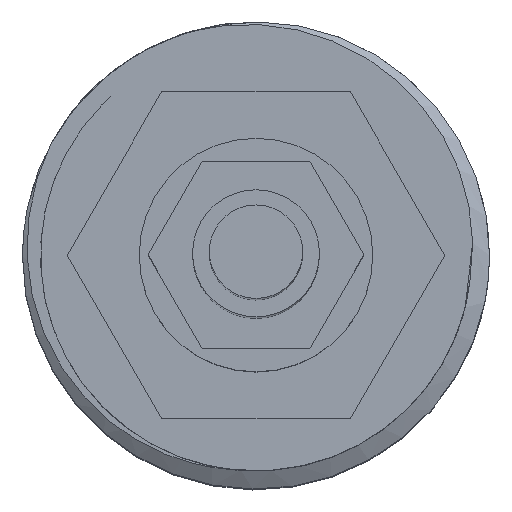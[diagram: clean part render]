
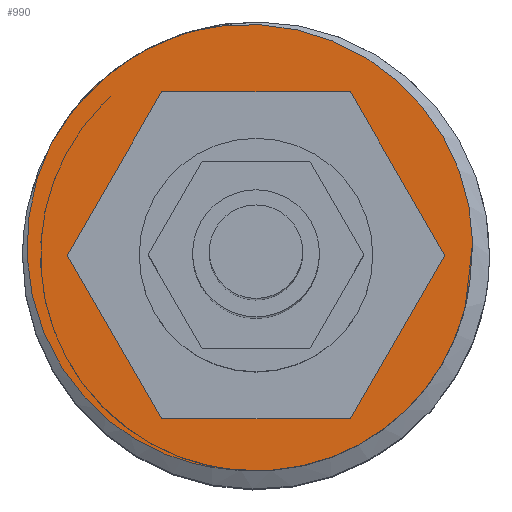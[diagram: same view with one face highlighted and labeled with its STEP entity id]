
A CAD part, top view. The second image highlights one B-rep face of the part: STEP entity #990.
In plain terms, the highlighted planar face has unit normal (0, 0, 1).
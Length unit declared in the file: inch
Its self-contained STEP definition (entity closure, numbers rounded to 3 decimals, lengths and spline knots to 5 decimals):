
#204 = CARTESIAN_POINT ( 'NONE',  ( 0.22918, -0.02614, 0.64 ) ) ;
#353 = EDGE_CURVE ( 'NONE', #364, #354, #1258, .T. ) ;
#354 = VERTEX_POINT ( 'NONE', #1208 ) ;
#364 = VERTEX_POINT ( 'NONE', #1298 ) ;
#621 = EDGE_CURVE ( 'NONE', #630, #354, #6591, .T. ) ;
#630 = VERTEX_POINT ( 'NONE', #204 ) ;
#827 = EDGE_CURVE ( 'NONE', #364, #828, #3387, .T. ) ;
#828 = VERTEX_POINT ( 'NONE', #3388 ) ;
#931 = EDGE_CURVE ( 'NONE', #828, #630, #4883, .T. ) ;
#939 = EDGE_LOOP ( 'NONE', ( #991, #992, #993, #994 ) ) ;
#990 = ADVANCED_FACE ( 'NONE', ( #5041 ), #5040, .F. ) ;
#991 = ORIENTED_EDGE ( 'NONE', *, *, #353, .F. ) ;
#992 = ORIENTED_EDGE ( 'NONE', *, *, #827, .T. ) ;
#993 = ORIENTED_EDGE ( 'NONE', *, *, #931, .T. ) ;
#994 = ORIENTED_EDGE ( 'NONE', *, *, #621, .T. ) ;
#1208 = CARTESIAN_POINT ( 'NONE',  ( -0.07037, 0.23989, 0.64 ) ) ;
#1209 = DIRECTION ( 'NONE',  ( -1., 0., 0. ) ) ;
#1210 = DIRECTION ( 'NONE',  ( 0., 0., -1. ) ) ;
#1211 = CARTESIAN_POINT ( 'NONE',  ( 0., 0., 0.64 ) ) ;
#1212 = AXIS2_PLACEMENT_3D ( 'NONE', #1211, #1210, #1209 ) ;
#1258 = CIRCLE ( 'NONE', #1212, 0.25 ) ;
#1298 = CARTESIAN_POINT ( 'NONE',  ( -0.21939, 0.11987, 0.64 ) ) ;
#3387 = B_SPLINE_CURVE_WITH_KNOTS ( 'NONE', 3,
 ( #3429, #3428, #3427, #3426, #3425, #3399, #3398, #3397, #3396, #3395, #3394, #3393, #3392, #3391, #3390, #3389, #3496, #3495, #3494, #3493, #3492, #3491, #3490, #3489, #3488, #3487, #3486, #3485 ),
 .UNSPECIFIED., .F., .F.,
 ( 4, 2, 2, 2, 2, 2, 2, 2, 2, 2, 2, 2, 2, 4 ),
 ( 0., 0.00075, 0.0015, 0.003, 0.00375, 0.0045, 0.00525, 0.006, 0.0075, 0.00901, 0.00976, 0.01051, 0.01126, 0.01201 ),
 .UNSPECIFIED. ) ;
#3388 = CARTESIAN_POINT ( 'NONE',  ( -0.02614, -0.22918, 0.64 ) ) ;
#3389 = CARTESIAN_POINT ( 'NONE',  ( -0.20615, -0.12385, 0.64 ) ) ;
#3390 = CARTESIAN_POINT ( 'NONE',  ( -0.22026, -0.09809, 0.64 ) ) ;
#3391 = CARTESIAN_POINT ( 'NONE',  ( -0.2245, -0.08911, 0.64 ) ) ;
#3392 = CARTESIAN_POINT ( 'NONE',  ( -0.23177, -0.07084, 0.64 ) ) ;
#3393 = CARTESIAN_POINT ( 'NONE',  ( -0.23482, -0.06155, 0.64 ) ) ;
#3394 = CARTESIAN_POINT ( 'NONE',  ( -0.23978, -0.0427, 0.64 ) ) ;
#3395 = CARTESIAN_POINT ( 'NONE',  ( -0.24169, -0.03313, 0.64 ) ) ;
#3396 = CARTESIAN_POINT ( 'NONE',  ( -0.24434, -0.0137, 0.64 ) ) ;
#3397 = CARTESIAN_POINT ( 'NONE',  ( -0.24507, -0.00379, 0.64 ) ) ;
#3398 = CARTESIAN_POINT ( 'NONE',  ( -0.24548, 0.02566, 0.64 ) ) ;
#3399 = CARTESIAN_POINT ( 'NONE',  ( -0.24346, 0.04506, 0.64 ) ) ;
#3425 = CARTESIAN_POINT ( 'NONE',  ( -0.23696, 0.07382, 0.64 ) ) ;
#3426 = CARTESIAN_POINT ( 'NONE',  ( -0.23421, 0.08336, 0.64 ) ) ;
#3427 = CARTESIAN_POINT ( 'NONE',  ( -0.22762, 0.10193, 0.64 ) ) ;
#3428 = CARTESIAN_POINT ( 'NONE',  ( -0.22378, 0.111, 0.64 ) ) ;
#3429 = CARTESIAN_POINT ( 'NONE',  ( -0.21939, 0.11987, 0.64 ) ) ;
#3485 = CARTESIAN_POINT ( 'NONE',  ( -0.02614, -0.22918, 0.64 ) ) ;
#3486 = CARTESIAN_POINT ( 'NONE',  ( -0.03601, -0.22848, 0.64 ) ) ;
#3487 = CARTESIAN_POINT ( 'NONE',  ( -0.04584, -0.22714, 0.64 ) ) ;
#3488 = CARTESIAN_POINT ( 'NONE',  ( -0.06507, -0.22327, 0.64 ) ) ;
#3489 = CARTESIAN_POINT ( 'NONE',  ( -0.0745, -0.22075, 0.64 ) ) ;
#3490 = CARTESIAN_POINT ( 'NONE',  ( -0.093, -0.21453, 0.64 ) ) ;
#3491 = CARTESIAN_POINT ( 'NONE',  ( -0.10207, -0.21084, 0.64 ) ) ;
#3492 = CARTESIAN_POINT ( 'NONE',  ( -0.11984, -0.20225, 0.64 ) ) ;
#3493 = CARTESIAN_POINT ( 'NONE',  ( -0.12845, -0.1974, 0.64 ) ) ;
#3494 = CARTESIAN_POINT ( 'NONE',  ( -0.15302, -0.18142, 0.64 ) ) ;
#3495 = CARTESIAN_POINT ( 'NONE',  ( -0.16798, -0.16876, 0.64 ) ) ;
#3496 = CARTESIAN_POINT ( 'NONE',  ( -0.19477, -0.13971, 0.64 ) ) ;
#4872 = CARTESIAN_POINT ( 'NONE',  ( 0.22918, -0.02614, 0.64 ) ) ;
#4873 = CARTESIAN_POINT ( 'NONE',  ( 0.22747, -0.04119, 0.64 ) ) ;
#4874 = CARTESIAN_POINT ( 'NONE',  ( 0.22429, -0.05596, 0.64 ) ) ;
#4875 = CARTESIAN_POINT ( 'NONE',  ( 0.21505, -0.08479, 0.64 ) ) ;
#4876 = CARTESIAN_POINT ( 'NONE',  ( 0.20904, -0.09869, 0.64 ) ) ;
#4877 = CARTESIAN_POINT ( 'NONE',  ( 0.18703, -0.13836, 0.64 ) ) ;
#4878 = CARTESIAN_POINT ( 'NONE',  ( 0.16709, -0.16187, 0.64 ) ) ;
#4880 = CARTESIAN_POINT ( 'NONE',  ( 0.00397, -0.23262, 0.64 ) ) ;
#4881 = CARTESIAN_POINT ( 'NONE',  ( -0.02614, -0.22918, 0.64 ) ) ;
#4883 = B_SPLINE_CURVE_WITH_KNOTS ( 'NONE', 3,
 ( #4881, #4880, #4979, #4978, #4977, #4976, #4975, #4878, #4877, #4876, #4875, #4874, #4873, #4872 ),
 .UNSPECIFIED., .F., .F.,
 ( 4, 2, 2, 2, 2, 2, 4 ),
 ( 0., 0.00231, 0.00346, 0.00461, 0.00692, 0.00807, 0.00923 ),
 .UNSPECIFIED. ) ;
#4975 = CARTESIAN_POINT ( 'NONE',  ( 0.13162, -0.19003, 0.64 ) ) ;
#4976 = CARTESIAN_POINT ( 'NONE',  ( 0.11882, -0.19828, 0.64 ) ) ;
#4977 = CARTESIAN_POINT ( 'NONE',  ( 0.09219, -0.21198, 0.64 ) ) ;
#4978 = CARTESIAN_POINT ( 'NONE',  ( 0.07826, -0.21751, 0.64 ) ) ;
#4979 = CARTESIAN_POINT ( 'NONE',  ( 0.03461, -0.23006, 0.64 ) ) ;
#5036 = DIRECTION ( 'NONE',  ( -1., 0., 0. ) ) ;
#5037 = DIRECTION ( 'NONE',  ( 0., 0., -1. ) ) ;
#5038 = AXIS2_PLACEMENT_3D ( 'NONE', #5039, #5037, #5036 ) ;
#5039 = CARTESIAN_POINT ( 'NONE',  ( -0.86739, 3.08953, 0.64 ) ) ;
#5040 = PLANE ( 'NONE',  #5038 ) ;
#5041 = FACE_OUTER_BOUND ( 'NONE', #939, .T. ) ;
#6548 = CARTESIAN_POINT ( 'NONE',  ( -0.00179, 0.24747, 0.64 ) ) ;
#6549 = CARTESIAN_POINT ( 'NONE',  ( 0.00802, 0.24698, 0.64 ) ) ;
#6550 = CARTESIAN_POINT ( 'NONE',  ( 0.02762, 0.24479, 0.64 ) ) ;
#6569 = CARTESIAN_POINT ( 'NONE',  ( 0.11966, 0.2107, 0.64 ) ) ;
#6570 = CARTESIAN_POINT ( 'NONE',  ( 0.13594, 0.19959, 0.64 ) ) ;
#6571 = CARTESIAN_POINT ( 'NONE',  ( 0.14371, 0.19358, 0.64 ) ) ;
#6572 = CARTESIAN_POINT ( 'NONE',  ( 0.16588, 0.17415, 0.64 ) ) ;
#6573 = CARTESIAN_POINT ( 'NONE',  ( 0.17929, 0.15916, 0.64 ) ) ;
#6574 = CARTESIAN_POINT ( 'NONE',  ( 0.03747, 0.24308, 0.64 ) ) ;
#6575 = CARTESIAN_POINT ( 'NONE',  ( 0.0663, 0.23622, 0.64 ) ) ;
#6576 = CARTESIAN_POINT ( 'NONE',  ( 0.0847, 0.22941, 0.64 ) ) ;
#6577 = CARTESIAN_POINT ( 'NONE',  ( 0.11108, 0.21581, 0.64 ) ) ;
#6578 = CARTESIAN_POINT ( 'NONE',  ( -0.07037, 0.23989, 0.64 ) ) ;
#6579 = CARTESIAN_POINT ( 'NONE',  ( -0.05107, 0.24472, 0.64 ) ) ;
#6580 = CARTESIAN_POINT ( 'NONE',  ( -0.03124, 0.24722, 0.64 ) ) ;
#6588 = CARTESIAN_POINT ( 'NONE',  ( 0.22875, 0.05285, 0.64 ) ) ;
#6589 = CARTESIAN_POINT ( 'NONE',  ( 0.23174, 0.02336, 0.64 ) ) ;
#6590 = CARTESIAN_POINT ( 'NONE',  ( 0.23212, 0.01337, 0.64 ) ) ;
#6591 = B_SPLINE_CURVE_WITH_KNOTS ( 'NONE', 3,
 ( #6594, #6593, #6592, #6590, #6589, #6588, #6609, #6608, #6607, #6606, #6605, #6573, #6572, #6571, #6570, #6569, #6577, #6576, #6575, #6574, #6550, #6549, #6548, #6580, #6579, #6578 ),
 .UNSPECIFIED., .F., .F.,
 ( 4, 2, 2, 2, 2, 2, 2, 2, 2, 2, 2, 2, 4 ),
 ( 0., 0.00075, 0.00151, 0.00302, 0.00377, 0.00453, 0.00604, 0.00679, 0.00754, 0.00905, 0.00981, 0.01056, 0.01207 ),
 .UNSPECIFIED. ) ;
#6592 = CARTESIAN_POINT ( 'NONE',  ( 0.23161, -0.00643, 0.64 ) ) ;
#6593 = CARTESIAN_POINT ( 'NONE',  ( 0.23073, -0.0163, 0.64 ) ) ;
#6594 = CARTESIAN_POINT ( 'NONE',  ( 0.22918, -0.02614, 0.64 ) ) ;
#6605 = CARTESIAN_POINT ( 'NONE',  ( 0.196, 0.13489, 0.64 ) ) ;
#6606 = CARTESIAN_POINT ( 'NONE',  ( 0.20105, 0.12647, 0.64 ) ) ;
#6607 = CARTESIAN_POINT ( 'NONE',  ( 0.2101, 0.10899, 0.64 ) ) ;
#6608 = CARTESIAN_POINT ( 'NONE',  ( 0.21413, 0.09986, 0.64 ) ) ;
#6609 = CARTESIAN_POINT ( 'NONE',  ( 0.22436, 0.07198, 0.64 ) ) ;
